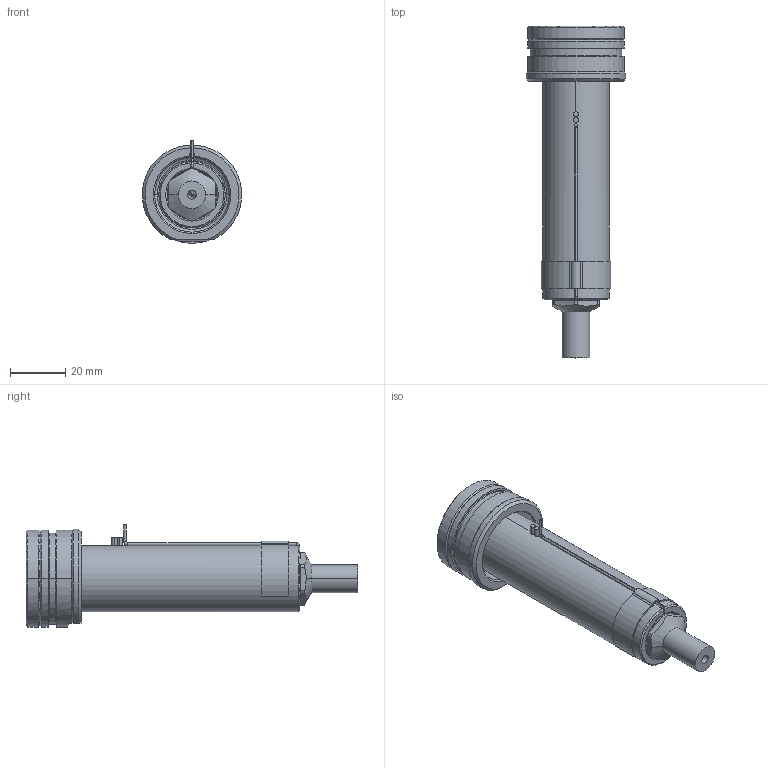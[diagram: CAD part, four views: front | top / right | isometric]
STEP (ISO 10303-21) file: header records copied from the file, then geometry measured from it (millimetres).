
FILE_DESCRIPTION((''),'2;1');
FILE_NAME('EO06_PG-FBE_STD_090_SW','2024-02-19T11:50:06',('sundharh'),(''),'CREO PARAMETRIC BY PTC INC, 2023154','CREO PARAMETRIC BY PTC INC, 2023154','');
FILE_SCHEMA(('CONFIG_CONTROL_DESIGN'));
Length unit declared in the file: millimetre
Products named in the file (1): EO06_PG-FBE_STD_090_SW
Bounding box: 35.93 x 120 x 37 mm (x, y, z)
Volume: 52581.2 mm3; surface area: 16595.7 mm2
Topology: 2 solids, 2 shells, 211 faces, 568 edges, 347 vertices
Faces by surface type: cylinder 85, plane 54, cone 42, torus 21, bspline 6, sphere 3
Entity records: 7583 total; most frequent: CARTESIAN_POINT 2220, DIRECTION 1181, ORIENTED_EDGE 1116, EDGE_CURVE 558, AXIS2_PLACEMENT_3D 496, VERTEX_POINT 347, CIRCLE 291, EDGE_LOOP 227
